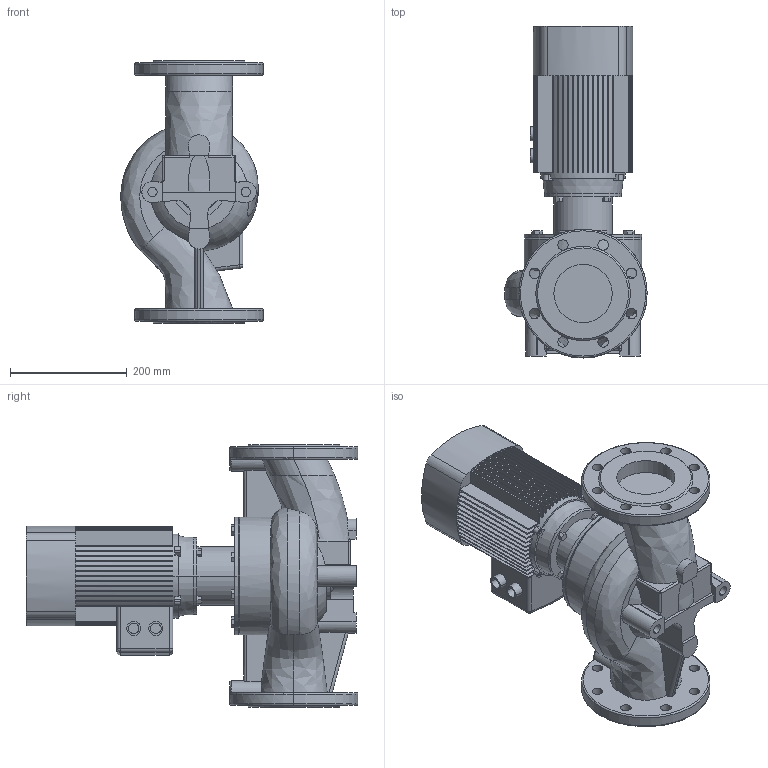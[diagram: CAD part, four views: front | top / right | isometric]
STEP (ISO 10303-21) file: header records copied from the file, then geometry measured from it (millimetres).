
FILE_DESCRIPTION (( 'STEP AP203' ), '1' );
FILE_NAME ('TD100-9_2.STEP', '2022-05-02T18:55:50', ( '' ), ( '' ), 'SwSTEP 2.0', 'SolidWorks 2019', '' );
FILE_SCHEMA (( 'CONFIG_CONTROL_DESIGN' ));
Length unit declared in the file: millimetre
Products named in the file (4): TD100-9_2; Fon_100_TD100-9_2; Pr_ch 100_TD100-9_2; ED_B14_YE2-90L-2 (2.2)
Assembly tree (3 placements, depth 2):
  TD100-9_2
    Pr_ch 100_TD100-9_2
    Fon_100_TD100-9_2
    ED_B14_YE2-90L-2 (2.2)
Bounding box: 244.2 x 569 x 450 mm (x, y, z)
Volume: 16547719.5 mm3; surface area: 1094579.9 mm2
Topology: 3 solids, 5 shells, 662 faces, 1826 edges, 1199 vertices
Faces by surface type: plane 424, cylinder 173, bspline 26, torus 22, cone 11, sphere 6
Entity records: 27992 total; most frequent: CARTESIAN_POINT 10512, ORIENTED_EDGE 3644, DIRECTION 3545, EDGE_CURVE 1822, AXIS2_PLACEMENT_3D 1255, VERTEX_POINT 1199, VECTOR 1035, LINE 1035
